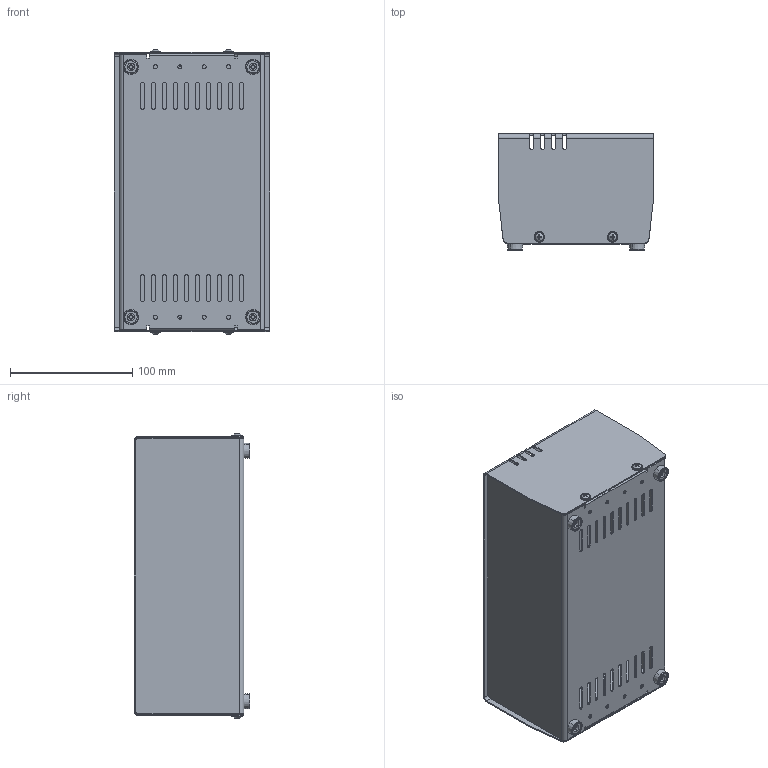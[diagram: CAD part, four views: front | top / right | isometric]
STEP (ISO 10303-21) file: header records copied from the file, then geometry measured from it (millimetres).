
FILE_DESCRIPTION (( 'STEP AP203' ), '1' );
FILE_NAME ('MP-165.STEP', '2025-04-24T07:21:39', ( '' ), ( '' ), 'SwSTEP 2.0', 'SolidWorks 2021', '' );
FILE_SCHEMA (( 'CONFIG_CONTROL_DESIGN' ));
Length unit declared in the file: millimetre
Products named in the file (5): MP-165; 229x127x90_ust; 229x127x90_taban; A-82-0-0-G-0; M3_vida
Assembly tree (10 placements, depth 2):
  MP-165
    229x127x90_taban
    229x127x90_ust
    M3_vida  x4
    A-82-0-0-G-0  x4
Bounding box: 127 x 95 x 233.67 mm (x, y, z)
Volume: 118187.5 mm3; surface area: 238497.8 mm2
Topology: 10 solids, 10 shells, 500 faces, 1292 edges, 816 vertices
Faces by surface type: plane 236, cylinder 220, torus 24, cone 16, bspline 4
Entity records: 12464 total; most frequent: CARTESIAN_POINT 2164, DIRECTION 2084, ORIENTED_EDGE 1972, EDGE_CURVE 986, AXIS2_PLACEMENT_3D 743, VERTEX_POINT 618, LINE 598, VECTOR 598
